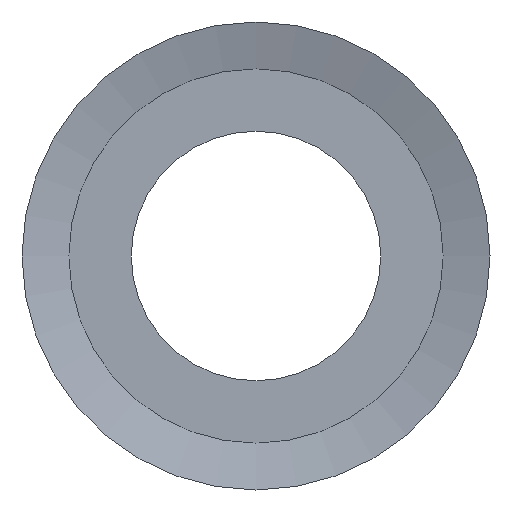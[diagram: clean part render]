
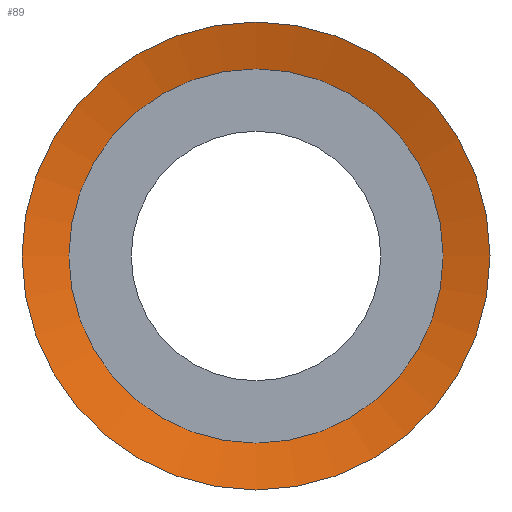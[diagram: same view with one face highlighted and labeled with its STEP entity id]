
A CAD part, left-side view. The second image highlights one B-rep face of the part: STEP entity #89.
In plain terms, the highlighted conical face has half-angle 75 degrees and reference radius 6.75 mm.
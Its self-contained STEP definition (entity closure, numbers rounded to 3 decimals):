
#23=FACE_OUTER_BOUND('',#29,.T.);
#29=EDGE_LOOP('',(#73,#74,#75,#76));
#37=LINE('',#171,#41);
#41=VECTOR('',#144,6.75);
#45=CIRCLE('',#120,7.5);
#46=CIRCLE('',#122,6.);
#51=VERTEX_POINT('',#166);
#52=VERTEX_POINT('',#170);
#58=EDGE_CURVE('',#51,#51,#45,.T.);
#60=EDGE_CURVE('',#51,#52,#37,.T.);
#61=EDGE_CURVE('',#52,#52,#46,.T.);
#73=ORIENTED_EDGE('',*,*,#58,.T.);
#74=ORIENTED_EDGE('',*,*,#60,.T.);
#75=ORIENTED_EDGE('',*,*,#61,.F.);
#76=ORIENTED_EDGE('',*,*,#60,.F.);
#86=CONICAL_SURFACE('',#121,6.75,1.309);
#89=ADVANCED_FACE('',(#23),#86,.F.);
#120=AXIS2_PLACEMENT_3D('',#167,#139,#140);
#121=AXIS2_PLACEMENT_3D('',#169,#142,#143);
#122=AXIS2_PLACEMENT_3D('',#172,#145,#146);
#139=DIRECTION('center_axis',(-1.,0.,0.));
#140=DIRECTION('ref_axis',(0.,0.,1.));
#142=DIRECTION('center_axis',(-1.,0.,0.));
#143=DIRECTION('ref_axis',(0.,1.,0.));
#144=DIRECTION('',(0.259,0.966,0.));
#145=DIRECTION('center_axis',(-1.,0.,0.));
#146=DIRECTION('ref_axis',(0.,0.,1.));
#166=CARTESIAN_POINT('',(-0.902,-7.5,0.));
#167=CARTESIAN_POINT('Origin',(-0.902,0.,
0.));
#169=CARTESIAN_POINT('Origin',(-0.701,0.,
0.));
#170=CARTESIAN_POINT('',(-0.5,-6.,0.));
#171=CARTESIAN_POINT('',(-0.701,-6.75,0.));
#172=CARTESIAN_POINT('Origin',(-0.5,0.,
0.));
